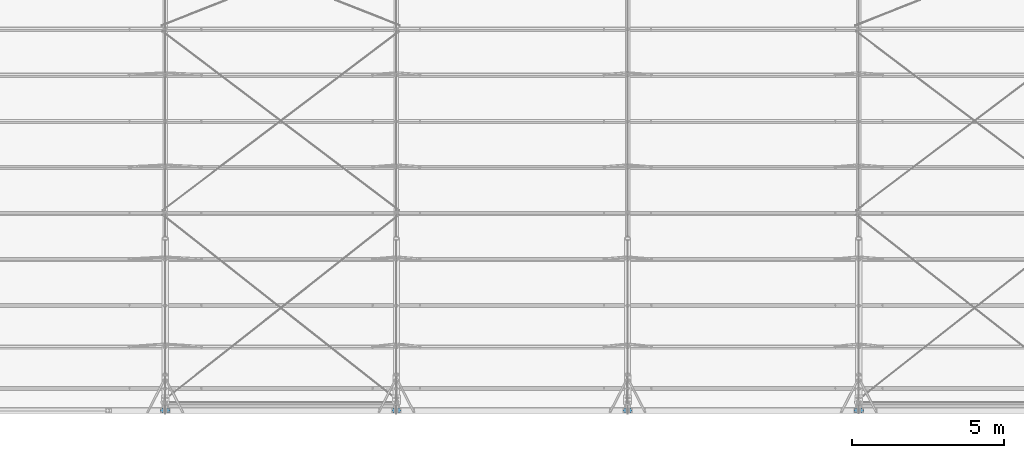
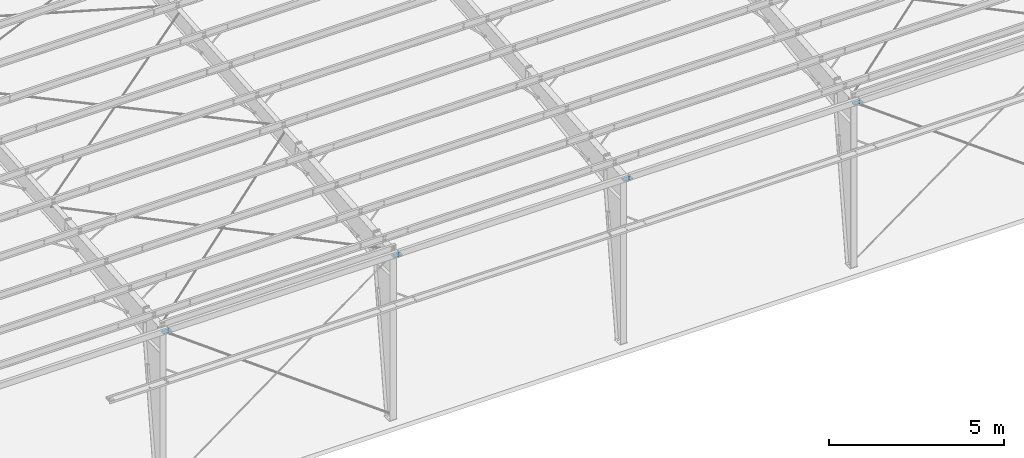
# One storey, part 22 of 185: 4 beams, 4 elements without a shape of their own.
"""IFC2X3 building model written with IfcOpenShell, lengths in millimetres."""

import ifcopenshell
import ifcopenshell.guid

model = None  # the IFC model being written
_history = None  # IfcOwnerHistory: only IFC2X3 demands one
_inside = {}  # id of a spatial element -> (the spatial element, [elements in it])
_under = {}  # id of a project, library or spatial element -> (it, [spatial elements below it])
_declared = {}  # id of a project -> (the project, [libraries it declares])
_typed = {}  # id of a type object -> (the type object, [elements of that type])
_made_of = {}  # id of a material, layer set ... -> (it, [elements and type objects made of it])


def new_model(schema):
    """Start an empty IFC model of exactly this schema.

    Asked for "IFC4X3", IfcOpenShell would pick the latest addendum, in which some entities
    have other attributes; the version numbers below select the first issue.
    IFC2X3 requires an IfcOwnerHistory on every rooted entity: one is made here for all.
    """
    global model, _history
    if schema == "IFC4X3":
        model = ifcopenshell.file(schema_version=(4, 3, 0, 0))
    else:
        model = ifcopenshell.file(schema=schema)
    _inside.clear()
    _under.clear()
    _declared.clear()
    _typed.clear()
    _made_of.clear()
    _history = None
    if model.schema == "IFC2X3":
        org = make("IfcOrganization", Name="unknown")
        user = make(
            "IfcPersonAndOrganization",
            ThePerson=make("IfcPerson", FamilyName="unknown"),
            TheOrganization=org,
        )
        app = make(
            "IfcApplication",
            ApplicationDeveloper=org,
            Version="unknown",
            ApplicationFullName="unknown",
            ApplicationIdentifier="unknown",
        )
        _history = make(
            "IfcOwnerHistory",
            OwningUser=user,
            OwningApplication=app,
            ChangeAction="ADDED",
            CreationDate=0,
        )
    return model


def make(cls, **values):
    """One entity of the class cls with the attributes given. An attribute that is None is left unset."""
    return model.create_entity(
        cls, **{name: value for name, value in values.items() if value is not None}
    )


def rooted(cls, **values):
    """An entity with a GlobalId (a new one), such as an element, a storey or a relation."""
    return make(cls, GlobalId=ifcopenshell.guid.new(), OwnerHistory=_history, **values)


def si_unit(unit_type, name, prefix=None):
    """IfcSIUnit, for example si_unit("LENGTHUNIT", "METRE", prefix="MILLI")."""
    return make("IfcSIUnit", UnitType=unit_type, Prefix=prefix, Name=name)


def assignment(units):
    """IfcUnitAssignment: the units of a project."""
    return None if units is None else make("IfcUnitAssignment", Units=units)


def point(xyz):
    """IfcCartesianPoint."""
    return None if xyz is None else make("IfcCartesianPoint", Coordinates=xyz)


def direction(xyz):
    """IfcDirection."""
    return None if xyz is None else make("IfcDirection", DirectionRatios=xyz)


def frame(location, z_axis=None, x_axis=None):
    """IfcAxis2Placement3D, a coordinate frame: its origin and axes. An axis left out is left unset."""
    return make(
        "IfcAxis2Placement3D",
        Location=point(location),
        Axis=direction(z_axis),
        RefDirection=direction(x_axis),
    )


def frame_2d(location, x_axis=None):
    """IfcAxis2Placement2D, a coordinate frame in the plane: its origin and x axis."""
    return make(
        "IfcAxis2Placement2D", Location=point(location), RefDirection=direction(x_axis)
    )


def origin_with_axes():
    """The frame at (0, 0, 0) with the z axis (0, 0, 1) and the x axis (1, 0, 0) written out."""
    return frame((0.0, 0.0, 0.0), z_axis=(0.0, 0.0, 1.0), x_axis=(1.0, 0.0, 0.0))


def origin_2d_with_axis():
    """The frame at (0, 0) in the plane with the x axis (1, 0) written out."""
    return frame_2d((0.0, 0.0), x_axis=(1.0, 0.0))


def place(relative_to, where):
    """IfcLocalPlacement: puts the frame where relative to a parent placement (None: the world)."""
    return make(
        "IfcLocalPlacement", PlacementRelTo=relative_to, RelativePlacement=where
    )


def context(
    kind, dimensions, precision=None, world=None, true_north=None, identifier=None
):
    """IfcGeometricRepresentationContext, for example the 3D "Model" context."""
    return make(
        "IfcGeometricRepresentationContext",
        ContextIdentifier=identifier,
        ContextType=kind,
        CoordinateSpaceDimension=dimensions,
        Precision=precision,
        WorldCoordinateSystem=world,
        TrueNorth=true_north,
    )


def subcontext(parent, identifier, kind, view, scale=None):
    """IfcGeometricRepresentationSubContext, for example "Body" below "Model"."""
    return make(
        "IfcGeometricRepresentationSubContext",
        ContextIdentifier=identifier,
        ContextType=kind,
        ParentContext=parent,
        TargetScale=scale,
        TargetView=view,
    )


def project(units=None, contexts=None):
    """IfcProject with its units and contexts."""
    return rooted(
        "IfcProject",
        Name="project",
        RepresentationContexts=contexts,
        UnitsInContext=assignment(units),
    )


def spatial(cls, under=None, at=None, **own):
    """A site, building, storey or space (cls), placed at a placement, below another one or the project."""
    s = rooted(cls, ObjectPlacement=at, **own)
    if under is not None:
        _under.setdefault(under.id(), (under, []))[1].append(s)
    return s


def profile(cls, at=None, kind="AREA", **sizes):
    """A parametric profile (cls). Its sizes go by their IFC names, for example OverallWidth=200.0."""
    return make(cls, ProfileType=kind, Position=at, **sizes)


def rectangle(**sizes):
    """IfcRectangleProfileDef."""
    return profile("IfcRectangleProfileDef", **sizes)


def extrude(swept, where, along, depth):
    """IfcExtrudedAreaSolid: the profile swept, set in the frame where, extruded along a direction by depth."""
    return make(
        "IfcExtrudedAreaSolid",
        SweptArea=swept,
        Position=where,
        ExtrudedDirection=direction(along),
        Depth=depth,
    )


def shape(context_of_items, identifier, shape_type, items):
    """IfcShapeRepresentation: the items that make up one representation, for example the "Body"."""
    return make(
        "IfcShapeRepresentation",
        ContextOfItems=context_of_items,
        RepresentationIdentifier=identifier,
        RepresentationType=shape_type,
        Items=items,
    )


def material(Name=None, Category=None):
    """IfcMaterial."""
    return make("IfcMaterial", Name=Name, Category=Category)


def made_of(thing, what):
    """Note that an element or type object is made of a material, layer set ...; save() writes the relation."""
    if what is not None:
        _made_of.setdefault(what.id(), (what, []))[1].append(thing)
    return thing


def type_object(cls, material=None, **own):
    """A type object (cls), such as IfcWallType, which elements share."""
    return made_of(rooted(cls, **own), material)


def element(
    cls,
    number,
    at=None,
    inside=None,
    cuts=None,
    type_object=None,
    material=None,
    context=None,
    identifier="Body",
    shape_type=None,
    held_by="IfcProductDefinitionShape",
    body=None,
    shapes=None,
    **own,
):
    """One element of the class cls, such as IfcWall. Its Tag is "e" and its number.

    at: its placement. inside: the storey or other place that contains it. cuts: it is an
    opening in that element (IfcRelVoidsElement). A single representation is given by context,
    identifier, shape_type and body (its items); several are given by shapes. held_by: the class
    of the entity that holds the representations. save() writes the other relations.
    """
    e = rooted(cls, Tag="e%d" % number, ObjectPlacement=at, **own)
    if body is not None:
        shapes = [shape(context, identifier, shape_type, body)]
    if shapes is not None:
        e.Representation = make(held_by, Representations=shapes)
    if inside is not None:
        _inside.setdefault(inside.id(), (inside, []))[1].append(e)
    if cuts is not None:
        rooted(
            "IfcRelVoidsElement", RelatingBuildingElement=cuts, RelatedOpeningElement=e
        )
    if type_object is not None:
        _typed.setdefault(type_object.id(), (type_object, []))[1].append(e)
    return made_of(e, material)


def aggregate(whole, parts):
    """IfcRelAggregates: a whole, such as a stair, and the parts it consists of."""
    return rooted("IfcRelAggregates", RelatingObject=whole, RelatedObjects=parts)


def save(model, path):
    """Write the relations noted so far, then the file.

    IfcRelAggregates (storeys below a building ...), IfcRelContainedInSpatialStructure (elements
    in a storey), IfcRelDefinesByType, IfcRelAssociatesMaterial and IfcRelDeclares: one each for
    every whole, place, type object, material and project.
    """
    for whole, parts in _under.values():
        aggregate(whole, parts)
    for where, things in _inside.values():
        rooted(
            "IfcRelContainedInSpatialStructure",
            RelatedElements=things,
            RelatingStructure=where,
        )
    for kind, things in _typed.values():
        rooted("IfcRelDefinesByType", RelatedObjects=things, RelatingType=kind)
    for what, things in _made_of.values():
        rooted("IfcRelAssociatesMaterial", RelatedObjects=things, RelatingMaterial=what)
    for by, libraries in _declared.values():
        rooted("IfcRelDeclares", RelatingContext=by, RelatedDefinitions=libraries)
    model.write(path)


model = new_model("IFC2X3")

# Units and contexts
model_context = context("Model", 3, precision=1e-05, world=origin_with_axes())
body_context = subcontext(model_context, "Body", "Model", "MODEL_VIEW")
ifc_project = project(units=[si_unit("LENGTHUNIT", "METRE", prefix="MILLI"), si_unit("AREAUNIT", "SQUARE_METRE"), si_unit("VOLUMEUNIT", "CUBIC_METRE"), si_unit("MASSUNIT", "GRAM", prefix="KILO"), si_unit("TIMEUNIT", "SECOND"), si_unit("PLANEANGLEUNIT", "RADIAN"), si_unit("SOLIDANGLEUNIT", "STERADIAN"), si_unit("THERMODYNAMICTEMPERATUREUNIT", "DEGREE_CELSIUS"), si_unit("LUMINOUSINTENSITYUNIT", "LUMEN")], contexts=[model_context])

# Site, building, storey
site_placement = place(None, origin_with_axes())
site = spatial("IfcSite", under=ifc_project, at=site_placement, Name="Undefined", CompositionType="ELEMENT")
building_placement = place(site_placement, origin_with_axes())
building = spatial("IfcBuilding", under=site, at=building_placement, Name="Undefined", CompositionType="ELEMENT")
storey_placement = place(building_placement, origin_with_axes())
storey = spatial("IfcBuildingStorey", under=building, at=storey_placement, Name="Undefined", CompositionType="ELEMENT", Elevation=0.0)

# Assembly, beam
assembly_1_placement = place(storey_placement, origin_with_axes())
assembly_1 = element("IfcElementAssembly", 1, at=assembly_1_placement, inside=storey, Name="Steel Assembly", AssemblyPlace="NOTDEFINED", PredefinedType="RIGID_FRAME")
ifc_material = material(Name="STEEL/55")
beam_type = type_object("IfcBeamType", Name="PL1/4\"X6\"", PredefinedType="NOTDEFINED")
beam_1_placement = place(assembly_1_placement, frame((7239.0, 25.1363306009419, 5898.96936720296), z_axis=(-1.0, 0.0, 0.0), x_axis=(0.0, 0.996545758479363, 0.0830454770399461)))
beam_1 = element("IfcBeam", 2, at=beam_1_placement, type_object=beam_type, material=ifc_material, Name="4 BOLT EAVE STRUT PL", ObjectType="PL1/4\"X6\"", context=body_context, shape_type="SweptSolid", body=[
    extrude(rectangle(XDim=6.35, YDim=304.8, at=origin_2d_with_axis()), frame((152.928251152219, -2.12230581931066e-15, 0.0), z_axis=(-1.0, 0.0, 0.0), x_axis=(0.0, -1.0, 0.0)), (0.0, 0.0, 1.0), 152.9),
])
aggregate(assembly_1, [beam_1])

assembly_2_placement = place(storey_placement, origin_with_axes())
assembly_2 = element("IfcElementAssembly", 3, at=assembly_2_placement, inside=storey, Name="Steel Assembly", AssemblyPlace="NOTDEFINED", PredefinedType="RIGID_FRAME")
beam_2_placement = place(assembly_2_placement, frame((14859.0, 25.1363306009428, 5898.96936720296), z_axis=(-1.0, 0.0, 0.0), x_axis=(0.0, 0.996545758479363, 0.0830454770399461)))
beam_2 = element("IfcBeam", 4, at=beam_2_placement, type_object=beam_type, material=ifc_material, Name="4 BOLT EAVE STRUT PL", ObjectType="PL1/4\"X6\"", context=body_context, shape_type="SweptSolid", body=[
    extrude(rectangle(XDim=6.35, YDim=304.8, at=origin_2d_with_axis()), frame((152.928251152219, -2.12230581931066e-15, 0.0), z_axis=(-1.0, 0.0, 0.0), x_axis=(0.0, -1.0, 0.0)), (0.0, 0.0, 1.0), 152.9),
])
aggregate(assembly_2, [beam_2])

assembly_3_placement = place(storey_placement, origin_with_axes())
assembly_3 = element("IfcElementAssembly", 5, at=assembly_3_placement, inside=storey, Name="Steel Assembly", AssemblyPlace="NOTDEFINED", PredefinedType="RIGID_FRAME")
beam_3_placement = place(assembly_3_placement, frame((22479.0, 25.1363306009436, 5898.96936720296), z_axis=(-1.0, 0.0, 0.0), x_axis=(0.0, 0.996545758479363, 0.0830454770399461)))
beam_3 = element("IfcBeam", 6, at=beam_3_placement, type_object=beam_type, material=ifc_material, Name="4 BOLT EAVE STRUT PL", ObjectType="PL1/4\"X6\"", context=body_context, shape_type="SweptSolid", body=[
    extrude(rectangle(XDim=6.35, YDim=304.8, at=origin_2d_with_axis()), frame((152.928251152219, -2.12230581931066e-15, 0.0), z_axis=(-1.0, 0.0, 0.0), x_axis=(0.0, -1.0, 0.0)), (0.0, 0.0, 1.0), 152.9),
])
aggregate(assembly_3, [beam_3])

assembly_4_placement = place(storey_placement, origin_with_axes())
assembly_4 = element("IfcElementAssembly", 7, at=assembly_4_placement, inside=storey, Name="Steel Assembly", AssemblyPlace="NOTDEFINED", PredefinedType="RIGID_FRAME")
beam_4_placement = place(assembly_4_placement, frame((30099.0, 25.1363306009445, 5898.96936720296), z_axis=(-1.0, 0.0, 0.0), x_axis=(0.0, 0.996545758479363, 0.0830454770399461)))
beam_4 = element("IfcBeam", 8, at=beam_4_placement, type_object=beam_type, material=ifc_material, Name="4 BOLT EAVE STRUT PL", ObjectType="PL1/4\"X6\"", context=body_context, shape_type="SweptSolid", body=[
    extrude(rectangle(XDim=6.35, YDim=304.8, at=origin_2d_with_axis()), frame((152.928251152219, -2.12230581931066e-15, 0.0), z_axis=(-1.0, 0.0, 0.0), x_axis=(0.0, -1.0, 0.0)), (0.0, 0.0, 1.0), 152.9),
])
aggregate(assembly_4, [beam_4])

save(model, "model.ifc")
